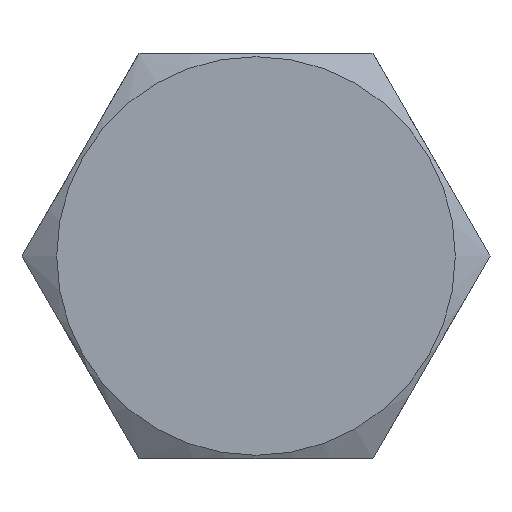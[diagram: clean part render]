
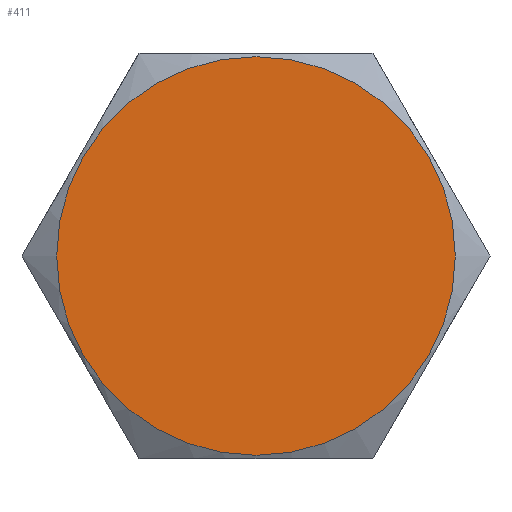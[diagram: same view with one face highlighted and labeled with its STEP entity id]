
A CAD part, front view. The second image highlights one B-rep face of the part: STEP entity #411.
In plain terms, the highlighted planar face has unit normal (0, -1, 0).
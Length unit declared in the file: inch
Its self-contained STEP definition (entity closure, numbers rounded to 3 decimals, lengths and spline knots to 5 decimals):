
#51=PLANE('',#467);
#74=FACE_OUTER_BOUND('',#99,.T.);
#99=EDGE_LOOP('',(#375));
#162=CIRCLE('',#466,0.43031);
#202=VERTEX_POINT('',#814);
#261=EDGE_CURVE('',#202,#202,#162,.T.);
#375=ORIENTED_EDGE('',*,*,#261,.F.);
#411=ADVANCED_FACE('',(#74),#51,.T.);
#466=AXIS2_PLACEMENT_3D('',#815,#565,#566);
#467=AXIS2_PLACEMENT_3D('',#817,#568,#569);
#565=DIRECTION('center_axis',(0.,1.,0.));
#566=DIRECTION('ref_axis',(0.,0.,1.));
#568=DIRECTION('center_axis',(0.,-1.,0.));
#569=DIRECTION('ref_axis',(0.,0.,-1.));
#814=CARTESIAN_POINT('',(0.,0.,-0.43031));
#815=CARTESIAN_POINT('Origin',(0.,0.,0.));
#817=CARTESIAN_POINT('Origin',(0.,0.,0.));
